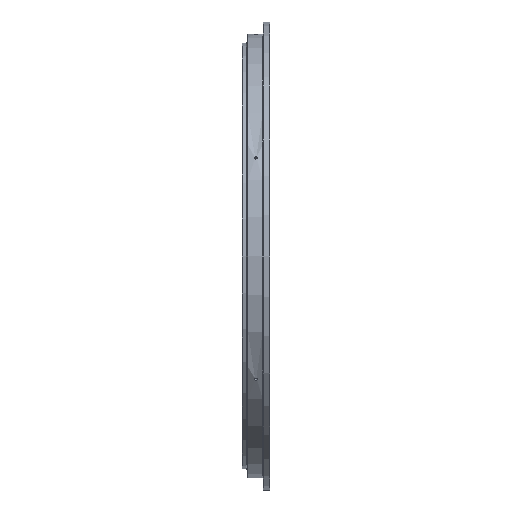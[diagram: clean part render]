
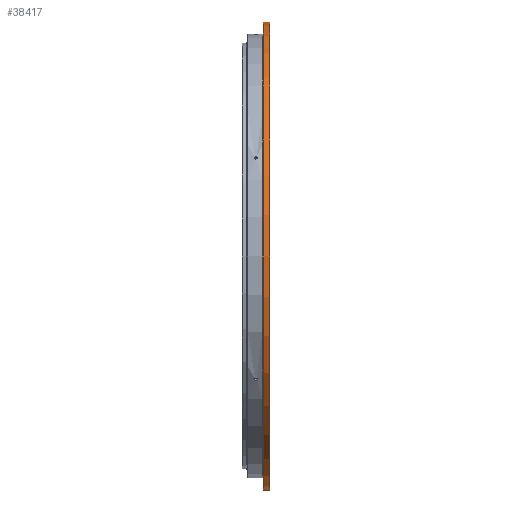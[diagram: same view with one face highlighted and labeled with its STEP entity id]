
A CAD part, left-side view. The second image highlights one B-rep face of the part: STEP entity #38417.
In plain terms, the highlighted cylindrical face has radius 800 mm (diameter 1600 mm), a partial arc.
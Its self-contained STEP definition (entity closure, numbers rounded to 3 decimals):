
#563 = VERTEX_POINT ( 'NONE', #42403 ) ;
#956 = DIRECTION ( 'NONE',  ( 0., -1., 0. ) ) ;
#5831 = ORIENTED_EDGE ( 'NONE', *, *, #38388, .T. ) ;
#6095 = ORIENTED_EDGE ( 'NONE', *, *, #41048, .F. ) ;
#8181 = CIRCLE ( 'NONE', #34135, 800. ) ;
#13328 = LINE ( 'NONE', #28188, #26167 ) ;
#13891 = VERTEX_POINT ( 'NONE', #21607 ) ;
#15806 = CYLINDRICAL_SURFACE ( 'NONE', #19336, 800. ) ;
#18262 = CARTESIAN_POINT ( 'NONE',  ( 0., -6.866, 800. ) ) ;
#19005 = VECTOR ( 'NONE', #25121, 1000. ) ;
#19336 = AXIS2_PLACEMENT_3D ( 'NONE', #44596, #23695, #23466 ) ;
#21156 = CARTESIAN_POINT ( 'NONE',  ( 0., 0., -800. ) ) ;
#21607 = CARTESIAN_POINT ( 'NONE',  ( 0., -28.866, -800. ) ) ;
#21832 = AXIS2_PLACEMENT_3D ( 'NONE', #36056, #956, #29756 ) ;
#23182 = EDGE_CURVE ( 'NONE', #563, #13891, #41831, .T. ) ;
#23466 = DIRECTION ( 'NONE',  ( 0., 0., -1. ) ) ;
#23695 = DIRECTION ( 'NONE',  ( 0., -1., 0. ) ) ;
#25121 = DIRECTION ( 'NONE',  ( 0., -1., 0. ) ) ;
#25159 = ORIENTED_EDGE ( 'NONE', *, *, #25520, .T. ) ;
#25520 = EDGE_CURVE ( 'NONE', #45828, #13891, #27897, .T. ) ;
#26167 = VECTOR ( 'NONE', #42571, 1000. ) ;
#26259 = FACE_OUTER_BOUND ( 'NONE', #41731, .T. ) ;
#27897 = LINE ( 'NONE', #21156, #19005 ) ;
#28188 = CARTESIAN_POINT ( 'NONE',  ( 0., 0., 800. ) ) ;
#28817 = ORIENTED_EDGE ( 'NONE', *, *, #23182, .F. ) ;
#29756 = DIRECTION ( 'NONE',  ( 0., 0., -1. ) ) ;
#30775 = CARTESIAN_POINT ( 'NONE',  ( 0., -6.866, -800. ) ) ;
#31464 = DIRECTION ( 'NONE',  ( 0., -1., 0. ) ) ;
#34135 = AXIS2_PLACEMENT_3D ( 'NONE', #42131, #31464, #45872 ) ;
#36056 = CARTESIAN_POINT ( 'NONE',  ( 0., -28.866, 0. ) ) ;
#38388 = EDGE_CURVE ( 'NONE', #42060, #45828, #8181, .T. ) ;
#38417 = ADVANCED_FACE ( 'NONE', ( #26259 ), #15806, .T. ) ;
#41048 = EDGE_CURVE ( 'NONE', #42060, #563, #13328, .T. ) ;
#41731 = EDGE_LOOP ( 'NONE', ( #6095, #5831, #25159, #28817 ) ) ;
#41831 = CIRCLE ( 'NONE', #21832, 800. ) ;
#42060 = VERTEX_POINT ( 'NONE', #18262 ) ;
#42131 = CARTESIAN_POINT ( 'NONE',  ( 0., -6.866, 0. ) ) ;
#42403 = CARTESIAN_POINT ( 'NONE',  ( 0., -28.866, 800. ) ) ;
#42571 = DIRECTION ( 'NONE',  ( 0., -1., 0. ) ) ;
#44596 = CARTESIAN_POINT ( 'NONE',  ( 0., 0., 0. ) ) ;
#45828 = VERTEX_POINT ( 'NONE', #30775 ) ;
#45872 = DIRECTION ( 'NONE',  ( 0., 0., -1. ) ) ;
